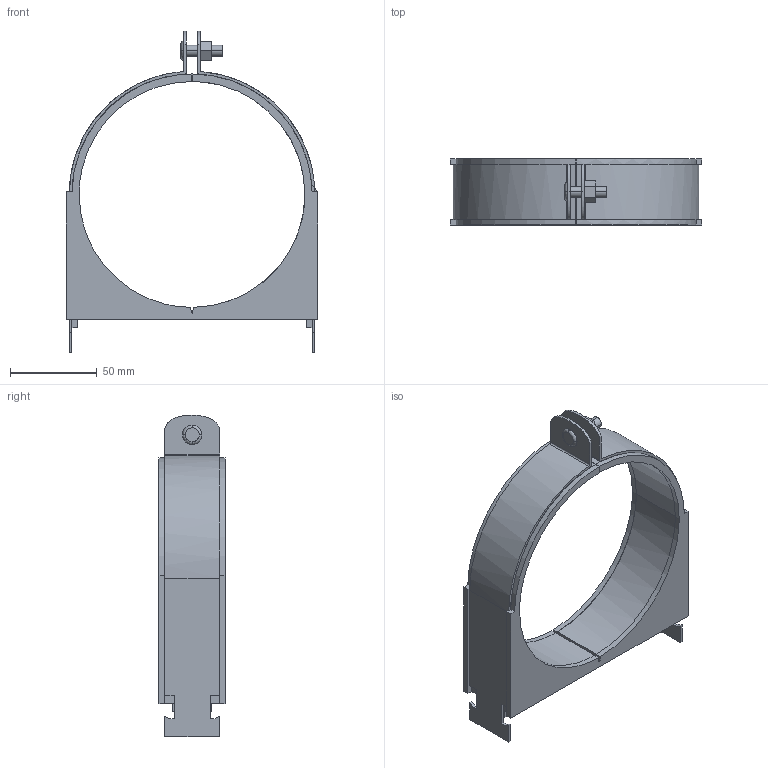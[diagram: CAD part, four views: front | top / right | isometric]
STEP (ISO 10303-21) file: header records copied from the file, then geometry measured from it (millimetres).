
FILE_DESCRIPTION(('TurboCAD Mac Pro'),'Build 980');
FILE_NAME('082N090.stp',' ',(''),(''),'ACIS Interop','IMSI','TurboCAD Mac Pro BY IMSI, INCORPORATED');
FILE_SCHEMA(('automotive_design'));
Length unit declared in the file: inch
Products named in the file (3): 1; 2; 3
Bounding box: 144.6 x 38.1 x 185.16 mm (x, y, z)
Volume: 187107.4 mm3; surface area: 75372.2 mm2
Topology: 3 solids, 3 shells, 153 faces, 400 edges, 258 vertices
Faces by surface type: plane 107, bspline 46
Entity records: 7326 total; most frequent: CARTESIAN_POINT 1810, ORIENTED_EDGE 800, DIRECTION 506, EDGE_CURVE 400, STYLED_ITEM 324, PRESENTATION_STYLE_ASSIGNMENT 324, COLOUR_RGB 324, LINE 278
